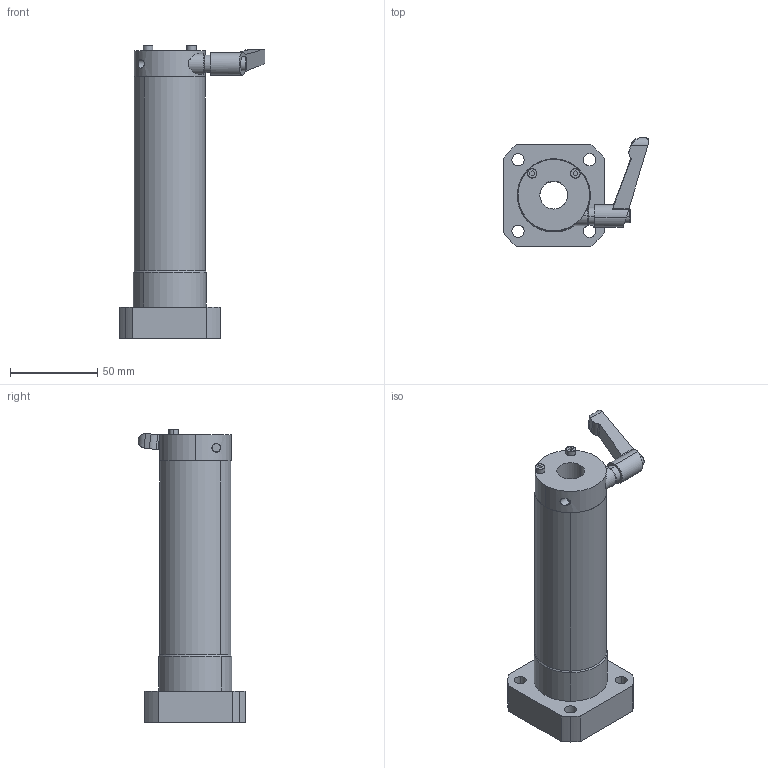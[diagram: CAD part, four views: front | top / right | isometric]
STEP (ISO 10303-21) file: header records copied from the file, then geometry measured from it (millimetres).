
FILE_DESCRIPTION (( 'STEP AP214' ), '1' );
FILE_NAME ('LFWL16MF-C.STEP', '2023-06-27T04:22:33', ( '' ), ( '' ), 'SwSTEP 2.0', 'SolidWorks 2019', '' );
FILE_SCHEMA (( 'AUTOMOTIVE_DESIGN' ));
Length unit declared in the file: millimetre
Products named in the file (3): “ÁSCK1615CO-S3.4; LFWL16MF; LFWL16MF-C
Assembly tree (2 placements, depth 2):
  LFWL16MF-C
    LFWL16MF
    “ÁSCK1615CO-S3.4
Bounding box: 83.5 x 61.81 x 168 mm (x, y, z)
Volume: 221125.5 mm3; surface area: 48997.2 mm2
Topology: 3 solids, 9 shells, 210 faces, 512 edges, 326 vertices
Faces by surface type: cylinder 85, plane 61, bspline 43, cone 13, torus 8
Entity records: 9414 total; most frequent: CARTESIAN_POINT 1981, DIRECTION 1087, ORIENTED_EDGE 1024, EDGE_CURVE 512, AXIS2_PLACEMENT_3D 448, VERTEX_POINT 326, CIRCLE 276, EDGE_LOOP 256
